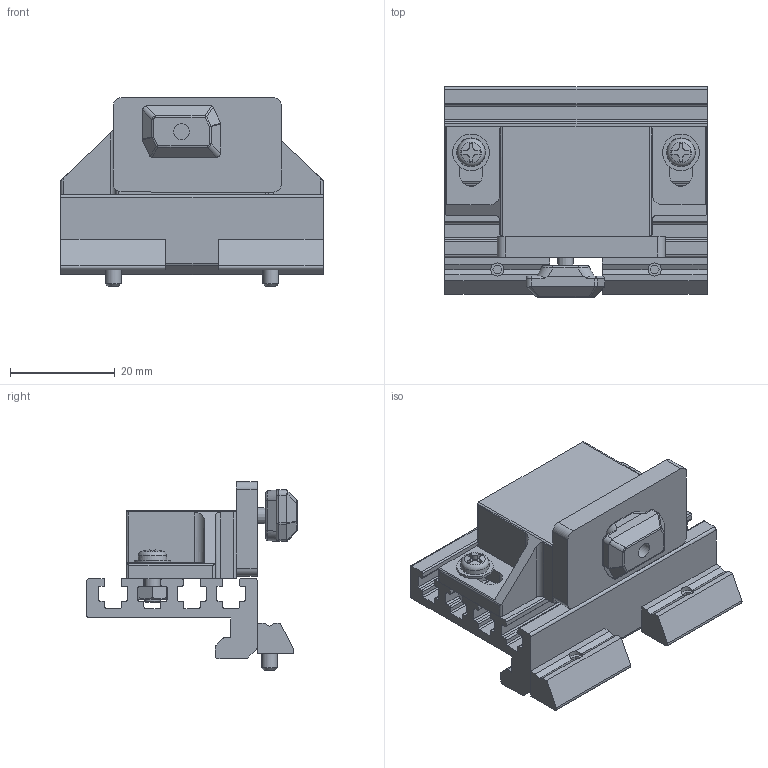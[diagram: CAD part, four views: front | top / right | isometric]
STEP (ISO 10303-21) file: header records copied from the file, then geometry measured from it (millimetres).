
FILE_DESCRIPTION(('STEP AP214'),'1');
FILE_NAME('MC40-SD.stp','2022-06-06T09:15:59',(' '),(' '),'Spatial InterOp 3D',' ',' ');
FILE_SCHEMA(('AUTOMOTIVE_DESIGN { 1 0 10303 214 1 1 1 1 }'));
Length unit declared in the file: millimetre
Products named in the file (19): MC40-ND; MC40; ___; ねじ: 皿頭 - M3.0 x 8.0; MC4P3; ND40-M3; M3ナット; M3×8NNS; M3PW; MC40-SD; ST3S-L50; NW40; M3*8押しねじ
Assembly tree (18 placements, depth 4):
  MC40-SD
    MC40-ND
      MC40
      ___
        ねじ: 皿頭 - M3.0 x 8.0
        MC4P3
        ND40-M3
      M3ナット
      M3ナット
      M3×8NNS
      M3PW
      M3×8NNS
      M3PW
    ST3S-L50
      ST3S-L50
      NW40
      NW40
      M3*8押しねじ
      M3*8押しねじ
Bounding box: 50 x 40.1 x 36 mm (x, y, z)
Volume: 23193.3 mm3; surface area: 15918.7 mm2
Topology: 15 solids, 15 shells, 399 faces, 1055 edges, 690 vertices
Faces by surface type: plane 230, cylinder 144, cone 13, bspline 6, torus 4, sphere 2
Full cylindrical faces by diameter (mm): 2.5 x2, 3 x7, 3.2 x2, 3.4 x1, 7 x2
Entity records: 16276 total; most frequent: CARTESIAN_POINT 2639, DIRECTION 2174, ORIENTED_EDGE 2038, EDGE_CURVE 1019, AXIS2_PLACEMENT_3D 764, VERTEX_POINT 685, LINE 646, VECTOR 646
